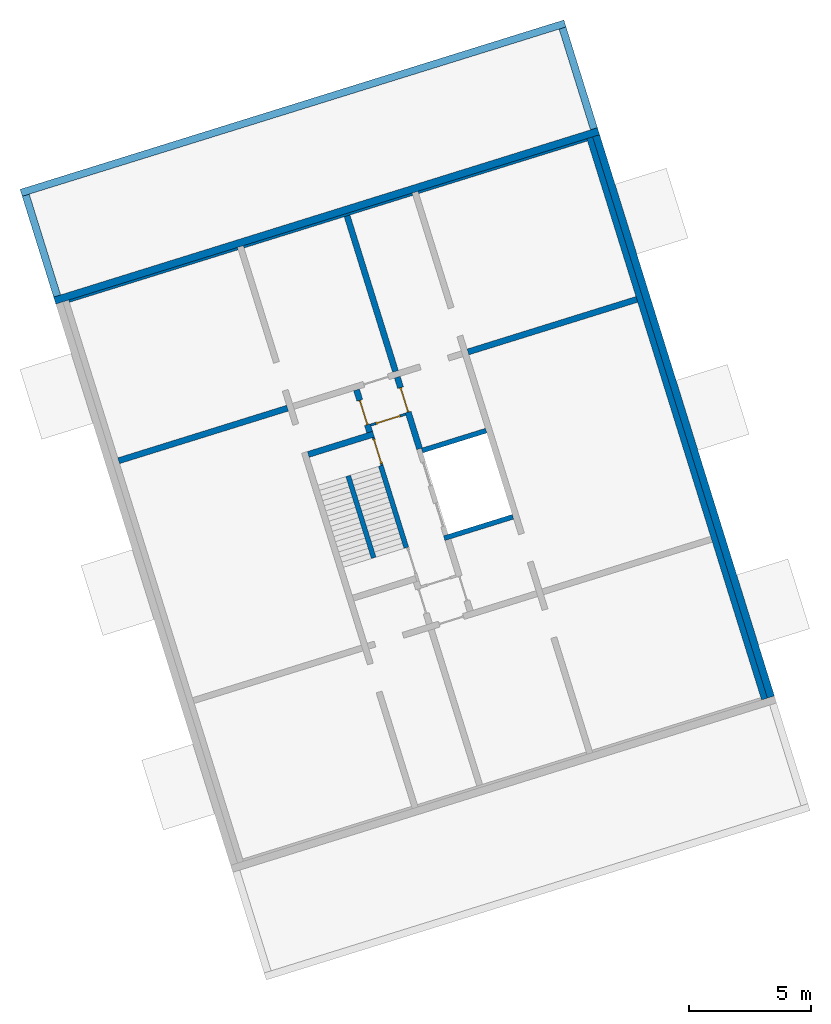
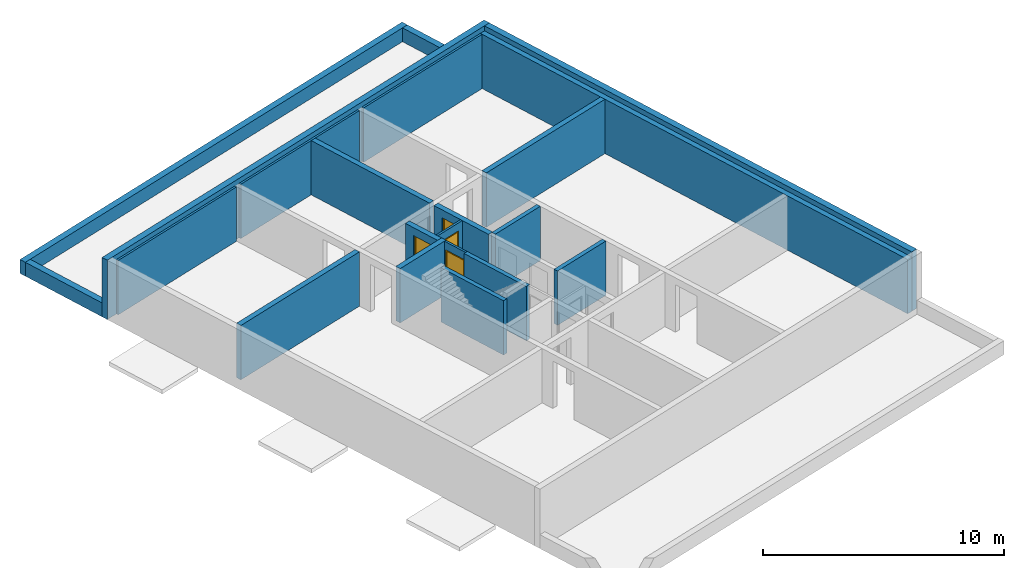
# One storey, part 2 of 4: 21 walls, 4 doors, 4 openings.
"""IFC4 building model written with IfcOpenShell, lengths in metres."""

from ifc_helpers import new_model, entity, si_unit, converted_unit, direction, frame, origin, place, context, subcontext, project, spatial, indexed_curve, outline, extrude, polygons, source, transform, mapped, material, constituent, constituent_set, type_object, type_shapes, element, fill, save


model = new_model("IFC4")

# Units and contexts
model_context = context("Model", 3, precision=1e-05, world=origin(), true_north=direction((6.12323399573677e-17, 1.0)))
body_context = subcontext(model_context, "Body", "Model", "MODEL_VIEW")
ifc_project = project(units=[si_unit("LENGTHUNIT", "METRE"), si_unit("AREAUNIT", "SQUARE_METRE"), si_unit("VOLUMEUNIT", "CUBIC_METRE"), converted_unit("PLANEANGLEUNIT", "DEGREE", entity("IfcPlaneAngleMeasure", 0.0174532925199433), si_unit("PLANEANGLEUNIT", "RADIAN"), dimensions=[0, 0, 0, 0, 0, 0, 0])], contexts=[model_context])

# Site, building, storey
site_placement = place(None, frame((13.1347999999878, 11.9886000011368, 0.0), z_axis=(0.0, 0.0, 1.0), x_axis=(0.954770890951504, 0.297342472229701, 0.0)))
site = spatial("IfcSite", under=ifc_project, at=site_placement, Name="Schiehaven", CompositionType="ELEMENT")
building_placement = place(site_placement, origin())
building = spatial("IfcBuilding", under=site, at=building_placement, Name="VORM huis", CompositionType="ELEMENT")
storey_placement = place(building_placement, frame((0.0, 0.0, 6.9)))
storey = spatial("IfcBuildingStorey", under=building, at=storey_placement, Name="02 tweede verdieping", CompositionType="ELEMENT", Elevation=6.9)

# Walls
ifc_material_1 = material(Name="beton_gewapend_ihw", Category="Miscellaneous")
wall_type_1 = type_object("IfcWallType", Name="Basic Wall:28_WA_skelet_wand 250mm_gen", PredefinedType="STANDARD")
wall_1_placement = place(storey_placement, frame((80.0, 5.0, 0.0), z_axis=(0.0, 0.0, 1.0), x_axis=(0.0, 1.0, 0.0)))
element("IfcWall", 1, at=wall_1_placement, inside=storey, type_object=wall_type_1, material=ifc_material_1, Name="Constructieve wand", ObjectType="Wand", PredefinedType="NOTDEFINED", context=body_context, shape_type="SweptSolid", body=[
    extrude(outline(indexed_curve([(24.1, 0.125000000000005), (1.84706995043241e-16, 0.125000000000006), (-1.84706995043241e-16, -0.125000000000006), (24.1, -0.125000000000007), (24.1, 0.125000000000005)], self_intersect=False)), origin(), (0.0, 0.0, 1.0), 2.75),
])
ifc_material_2 = material(Name="ntb_ntb_ntb", Category="Miscellaneous")
wall_type_2 = type_object("IfcWallType", Name="Basic Wall:21_WA_gevel_binnenspouwwand 100mm_gen", PredefinedType="STANDARD")
wall_2_placement = place(storey_placement, frame((79.8750000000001, 29.0499999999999, 0.0), z_axis=(0.0, 0.0, 1.0), x_axis=(-1.0, 0.0, 0.0)))
element("IfcWall", 2, at=wall_2_placement, inside=storey, type_object=wall_type_2, material=ifc_material_2, Name="Binnenspouwblad", ObjectType="Wand", PredefinedType="NOTDEFINED", context=body_context, shape_type="SweptSolid", body=[
    extrude(outline(indexed_curve([(7.24999999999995, 0.0500000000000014), (-2.83038752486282e-17, 0.0500000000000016), (2.83038752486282e-17, -0.0500000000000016), (7.24999999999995, -0.0500000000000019), (7.24999999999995, 0.0500000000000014)], self_intersect=False)), origin(), (0.0, 0.0, 1.0), 2.75),
])
wall_3_placement = place(storey_placement, frame((65.1250000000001, 29.0499999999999, 0.0)))
element("IfcWall", 3, at=wall_3_placement, inside=storey, type_object=wall_type_2, material=ifc_material_2, Name="Binnenspouwblad", ObjectType="Wand", PredefinedType="NOTDEFINED", context=body_context, shape_type="SweptSolid", body=[
    extrude(outline(indexed_curve([(7.24999999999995, 0.0500000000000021), (-1.82497125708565e-16, 0.0500000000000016), (1.82497125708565e-16, -0.0500000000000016), (7.24999999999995, -0.0500000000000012), (7.24999999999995, 0.0500000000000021)], self_intersect=False)), origin(), (0.0, 0.0, 1.0), 2.75),
])
wall_4_placement = place(storey_placement, frame((64.8750000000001, 29.0499999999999, 0.0), z_axis=(0.0, 0.0, 1.0), x_axis=(-1.0, 0.0, 0.0)))
element("IfcWall", 4, at=wall_4_placement, inside=storey, type_object=wall_type_2, material=ifc_material_2, Name="Binnenspouwblad", ObjectType="Wand", PredefinedType="NOTDEFINED", context=body_context, shape_type="SweptSolid", body=[
    extrude(outline(indexed_curve([(7.24999999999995, 0.0500000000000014), (-2.83038752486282e-17, 0.0500000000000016), (2.83038752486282e-17, -0.0500000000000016), (7.24999999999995, -0.0500000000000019), (7.24999999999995, 0.0500000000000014)], self_intersect=False)), origin(), (0.0, 0.0, 1.0), 2.75),
])
wall_type_3 = type_object("IfcWallType", Name="Basic Wall: 300mm_gen", PredefinedType="STANDARD")
wall_5_placement = place(storey_placement, frame((80.2750000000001, 5.0, 0.0), z_axis=(0.0, 0.0, 1.0), x_axis=(0.0, 1.0, 0.0)))
element("IfcWall", 5, at=wall_5_placement, inside=storey, type_object=wall_type_3, material=ifc_material_2, Name="Gevelwand", ObjectType="Wand", PredefinedType="NOTDEFINED", context=body_context, shape_type="SweptSolid", body=[
    extrude(outline(indexed_curve([(24.1, 0.150000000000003), (-2.29983128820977e-16, 0.150000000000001), (2.29983128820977e-16, -0.150000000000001), (24.1, -0.149999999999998), (24.1, 0.150000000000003)], self_intersect=False)), origin(), (0.0, 0.0, 1.0), 3.0),
])
wall_6_placement = place(storey_placement, frame((80.4250000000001, 29.2499999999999, 0.0), z_axis=(0.0, 0.0, 1.0), x_axis=(-1.0, 0.0, 0.0)))
element("IfcWall", 6, at=wall_6_placement, inside=storey, type_object=wall_type_3, material=ifc_material_2, Name="Gevelwand", ObjectType="Wand", PredefinedType="NOTDEFINED", context=body_context, shape_type="SweptSolid", body=[
    extrude(outline(indexed_curve([(23.35, 0.150000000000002), (-2.29983128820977e-16, 0.150000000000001), (2.29983128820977e-16, -0.150000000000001), (23.35, -0.149999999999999), (23.35, 0.150000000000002)], self_intersect=False)), origin(), (0.0, 0.0, 1.0), 3.0),
])
wall_7_placement = place(storey_placement, frame((57.2250000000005, 29.3999999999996, 0.0), z_axis=(0.0, 0.0, 1.0), x_axis=(0.0, 1.0, 0.0)))
element("IfcWall", 7, at=wall_7_placement, inside=storey, type_object=wall_type_3, material=ifc_material_2, Name="Gevelwand", ObjectType="Wand", PredefinedType="NOTDEFINED", context=body_context, shape_type="SweptSolid", body=[
    extrude(outline(indexed_curve([(4.32500000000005, 0.150000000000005), (-1.65365309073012e-15, 0.150000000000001), (1.65365309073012e-15, -0.150000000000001), (4.32500000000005, -0.149999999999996), (4.32500000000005, 0.150000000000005)], self_intersect=False)), origin(), (0.0, 0.0, 1.0), 0.700000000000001),
])
wall_8_placement = place(storey_placement, frame((57.0750000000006, 33.8749999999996, 0.0)))
element("IfcWall", 8, at=wall_8_placement, inside=storey, type_object=wall_type_3, material=ifc_material_2, Name="Gevelwand", ObjectType="Wand", PredefinedType="NOTDEFINED", context=body_context, shape_type="SweptSolid", body=[
    extrude(outline(indexed_curve([(23.3499999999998, 0.150000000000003), (-1.40493232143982e-15, 0.150000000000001), (1.40493232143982e-15, -0.150000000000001), (23.3499999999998, -0.149999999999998), (23.3499999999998, 0.150000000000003)], self_intersect=False)), origin(), (0.0, 0.0, 1.0), 0.700000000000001),
])
wall_9_placement = place(storey_placement, frame((80.2750000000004, 33.7249999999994, 0.0), z_axis=(0.0, 0.0, 1.0), x_axis=(0.0, -1.0, 0.0)))
element("IfcWall", 9, at=wall_9_placement, inside=storey, type_object=wall_type_3, material=ifc_material_2, Name="Gevelwand", ObjectType="Wand", PredefinedType="NOTDEFINED", context=body_context, shape_type="SweptSolid", body=[
    extrude(outline(indexed_curve([(4.32499999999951, 0.150000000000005), (-7.43704638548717e-16, 0.150000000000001), (7.43704638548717e-16, -0.150000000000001), (4.32499999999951, -0.149999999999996), (4.32499999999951, 0.150000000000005)], self_intersect=False)), origin(), (0.0, 0.0, 1.0), 0.700000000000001),
])
ifc_material_3 = material(Name="beton_gewapend_prefab-element", Category="Miscellaneous")
wall_type_4 = type_object("IfcWallType", Name="Basic Wall:28_WA_skelet_wand 200mm_gen", PredefinedType="STANDARD")
wall_10_placement = place(storey_placement, frame((72.3750000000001, 15.1999999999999, 0.0), z_axis=(0.0, 0.0, 1.0), x_axis=(-1.0, 0.0, 0.0)))
element("IfcWall", 10, at=wall_10_placement, inside=storey, type_object=wall_type_4, material=ifc_material_3, Name="Constructieve wand", ObjectType="Wand", PredefinedType="NOTDEFINED", context=body_context, shape_type="SweptSolid", body=[
    extrude(outline(indexed_curve([(2.95000000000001, 0.0999999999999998), (-2.97399835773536e-17, 0.0999999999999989), (2.97399835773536e-17, -0.0999999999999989), (2.95000000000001, -0.099999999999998), (2.95000000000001, 0.0999999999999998)], self_intersect=False)), origin(), (0.0, 0.0, 1.0), 2.75),
])
wall_11_placement = place(storey_placement, frame((69.6250000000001, 18.8999999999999, 0.0)))
element("IfcWall", 11, at=wall_11_placement, inside=storey, type_object=wall_type_4, material=ifc_material_3, Name="Constructieve wand", ObjectType="Wand", PredefinedType="NOTDEFINED", context=body_context, shape_type="SweptSolid", body=[
    extrude(outline(indexed_curve([(2.75, 0.0999999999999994), (-1.75746575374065e-16, 0.100000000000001), (1.75746575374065e-16, -0.100000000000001), (2.75, -0.100000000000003), (2.75, 0.0999999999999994)], self_intersect=False)), origin(), (0.0, 0.0, 1.0), 2.75),
])
wall_12_placement = place(storey_placement, frame((67.8250000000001, 15.2899999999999, 0.0), z_axis=(0.0, 0.0, 1.0), x_axis=(0.0, 1.0, 0.0)))
element("IfcWall", 12, at=wall_12_placement, inside=storey, type_object=wall_type_4, material=ifc_material_3, Name="Constructieve wand", ObjectType="Wand", PredefinedType="NOTDEFINED", context=body_context, shape_type="SweptSolid", body=[
    extrude(outline(indexed_curve([(3.52, 0.100000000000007), (1.31886131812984e-16, 0.100000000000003), (-1.31886131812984e-16, -0.100000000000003), (3.52, -0.0999999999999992), (3.52, 0.100000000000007)], self_intersect=False)), origin(), (0.0, 0.0, 1.0), 2.75),
])
wall_13_placement = place(storey_placement, frame((66.4250000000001, 15.2899999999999, 0.0), z_axis=(0.0, 0.0, 1.0), x_axis=(0.0, 1.0, 0.0)))
element("IfcWall", 13, at=wall_13_placement, inside=storey, type_object=wall_type_4, material=ifc_material_3, Name="Constructieve wand", ObjectType="Wand", PredefinedType="NOTDEFINED", context=body_context, shape_type="SweptSolid", body=[
    extrude(outline(indexed_curve([(3.52, 0.100000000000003), (2.54939214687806e-16, 0.100000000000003), (-2.54939214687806e-16, -0.100000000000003), (3.52, -0.100000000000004), (3.52, 0.100000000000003)], self_intersect=False)), origin(), (0.0, 0.0, 1.0), 2.75),
])
wall_type_5 = type_object("IfcWallType", Name="Basic Wall:22_WA_afbouw_binnenwand 250mm_gen", PredefinedType="STANDARD")
wall_14_placement = place(storey_placement, frame((65.1250000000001, 20.1349999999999, 0.0)))
element("IfcWall", 14, at=wall_14_placement, inside=storey, type_object=wall_type_5, material=ifc_material_2, Name="Binnenwand", ObjectType="Wand", PredefinedType="NOTDEFINED", context=body_context, shape_type="SweptSolid", body=[
    extrude(outline(indexed_curve([(2.8, 0.125000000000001), (2.00742282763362e-17, 0.125000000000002), (-2.00742282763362e-17, -0.125000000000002), (2.8, -0.125000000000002), (2.8, 0.125000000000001)], self_intersect=False)), origin(), (0.0, 0.0, 1.0), 2.75),
])

# Wall, opening, door
wall_15_placement = place(storey_placement, frame((67.8000000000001, 20.2599999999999, 0.0), z_axis=(0.0, 0.0, 1.0), x_axis=(0.0, 1.0, 0.0)))
wall_15 = element("IfcWall", 15, at=wall_15_placement, inside=storey, type_object=wall_type_5, material=ifc_material_2, Name="Binnenwand", ObjectType="Wand", PredefinedType="NOTDEFINED", context=body_context, shape_type="Tessellation", body=[
    polygons([(0.0, -0.124999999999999, 1.08286712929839e-15), (0.215000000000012, -0.125000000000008, 0.0), (0.315000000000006, -0.124999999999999, 1.08286712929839e-15), (0.315000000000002, -0.124999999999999, 2.34999999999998), (1.36500000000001, -0.125000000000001, 2.34999999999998), (1.36500000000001, -0.125000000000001, 1.08286712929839e-15), (1.81499999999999, -0.125000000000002, 1.08286712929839e-15), (1.81499999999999, -0.125000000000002, 2.75), (0.315000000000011, -0.125000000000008, 2.75), (0.215000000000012, -0.125000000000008, 2.75), (0.0, -0.124999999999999, 2.75), (0.315000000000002, 0.124999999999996, 2.34999999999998), (0.315000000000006, 0.124999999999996, 1.08286712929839e-15), (0.0, 0.124999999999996, 1.08286712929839e-15), (0.0, 0.124999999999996, 2.75), (1.81499999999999, 0.124999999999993, 2.75), (1.81499999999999, 0.124999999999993, 1.08286712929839e-15), (1.36500000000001, 0.124999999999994, 1.08286712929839e-15), (1.36500000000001, 0.124999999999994, 2.34999999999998)], [[[1, 2, 3, 4, 5, 6, 7, 8, 9, 10, 11]], [[12, 13, 14, 15, 16, 17, 18, 19]], [[14, 13, 3, 2, 1]], [[8, 7, 17, 16]], [[11, 10, 9, 8, 16, 15]], [[1, 11, 15, 14]], [[6, 5, 19, 18]], [[4, 3, 13, 12]], [[5, 4, 12, 19]], [[18, 17, 7, 6]]], closed=True),
])
opening_1_placement = place(wall_15_placement, frame((1.36500000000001, 0.124999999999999, 0.0)))
opening_1 = element("IfcOpeningElement", 16, at=opening_1_placement, cuts=wall_15, Name="Woningtoegangsdeur", PredefinedType="OPENING", context=body_context, shape_type="SweptSolid", body=[
    extrude(outline(indexed_curve([(2.34999999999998, 3.29504974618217e-30), (2.34999999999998, 1.05), (0.0, 1.05), (0.0, 3.29504974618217e-30), (2.34999999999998, 3.29504974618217e-30)], self_intersect=False)), frame((0.0, 0.0, 0.0), z_axis=(0.0, -1.0, 0.0), x_axis=(0.0, 0.0, 1.0)), (0.0, 0.0, 1.0), 0.25),
])
ifc_material_4 = material(Name="PD_a_binnenwandopeningen", Category="Miscellaneous")
ifc_constituent_1 = constituent(ifc_material_4, Name="PD_a_binnenwandopeningen", Category="Miscellaneous")
ifc_material_5 = material(Name="metaal_aluminium_ntb", Category="Miscellaneous")
ifc_constituent_2 = constituent(ifc_material_5, Name="metaal_aluminium_ntb", Category="Miscellaneous")
ifc_constituent_set_1 = constituent_set(constituents=[ifc_constituent_1, ifc_constituent_2])
ifc_constituent_3 = constituent(ifc_material_4, Name="PD_a_binnenwandopeningen", Category="Miscellaneous")
ifc_constituent_4 = constituent(ifc_material_5, Name="Panel", Category="Miscellaneous")
ifc_constituent_set_2 = constituent_set(constituents=[ifc_constituent_3, ifc_constituent_4])
door_type_1 = type_object("IfcDoorType", Name="32_DO_binnendeur enkel:woningtoegangsdeur", OperationType="REVOLVING", PredefinedType="DOOR", material=ifc_constituent_set_2)
shared_shape_1 = source(origin(), body_context, "Body", "SweptSolid", [
    extrude(outline(indexed_curve([(0.475, -1.16249999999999), (0.525000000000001, -1.16249999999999), (0.525000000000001, 1.18749999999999), (-0.525000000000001, 1.18749999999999), (-0.525000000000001, -1.16249999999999), (-0.475, -1.16249999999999), (-0.475, 1.13749999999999), (0.475, 1.13749999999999), (0.475, -1.16249999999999)], self_intersect=False)), frame((0.525000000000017, 0.174999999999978, 1.16249999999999), z_axis=(0.0, -1.0, 0.0), x_axis=(1.0, 0.0, 0.0)), (0.0, 0.0, 1.0), 0.1),
    extrude(outline(indexed_curve([(-0.475, -0.025), (0.475, -0.025), (0.475, 0.025), (-0.475, 0.025), (-0.475, -0.025)], self_intersect=False)), frame((0.525000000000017, 0.12499999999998, 0.0)), (0.0, 0.0, 1.0), 2.29999999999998),
])
type_shapes(door_type_1, [shared_shape_1])
door_1_placement = place(opening_1_placement, frame((0.0, 0.0, 0.0), z_axis=(0.0, 0.0, 1.0), x_axis=(-1.0, 0.0, 0.0)))
door_1 = element("IfcDoor", 17, at=door_1_placement, inside=storey, type_object=door_type_1, material=ifc_constituent_set_1, Name="Woningtoegangsdeur", ObjectType="Deur", OperationType="REVOLVING", OverallHeight=2.34999999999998, OverallWidth=1.05, PredefinedType="DOOR", context=body_context, shape_type="MappedRepresentation", body=[
    mapped(shared_shape_1, transform((0.0, 0.0, 0.0), scale=1.0)),
])
fill(opening_1, door_1)

wall_16_placement = place(storey_placement, frame((69.5500000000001, 19.0, 0.0), z_axis=(0.0, 0.0, 1.0), x_axis=(0.0, 1.0, 0.0)))
wall_16 = element("IfcWall", 18, at=wall_16_placement, inside=storey, type_object=wall_type_5, material=ifc_material_2, Name="Binnenwand", ObjectType="Wand", PredefinedType="NOTDEFINED", context=body_context, shape_type="Tessellation", body=[
    polygons([(2.62500000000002, -0.125000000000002, 2.34999999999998), (2.62500000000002, -0.125000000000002, 1.08286712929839e-15), (3.07499999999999, -0.125000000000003, 1.08286712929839e-15), (3.07499999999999, -0.125000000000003, 2.75), (2.16573425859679e-15, -0.125000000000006, 2.75), (2.16573425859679e-15, -0.125000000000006, 1.08286712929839e-15), (1.57500000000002, -0.125, 1.08286712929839e-15), (1.57500000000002, -0.125, 2.34999999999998), (3.075, 0.125000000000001, 1.08286712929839e-15), (2.62500000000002, 0.125000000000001, 1.08286712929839e-15), (2.62500000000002, 0.125000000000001, 2.34999999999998), (1.57500000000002, 0.125000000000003, 2.34999999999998), (1.57500000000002, 0.125000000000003, 1.08286712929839e-15), (1.475, 0.125000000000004, 0.0), (4.33146851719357e-15, 0.125000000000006, 1.08286712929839e-15), (4.33146851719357e-15, 0.125000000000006, 2.75), (1.475, 0.125000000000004, 2.75), (1.575, 0.125000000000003, 2.75), (3.075, 0.125000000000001, 2.75)], [[[1, 2, 3, 4, 5, 6, 7, 8]], [[9, 10, 11, 12, 13, 14, 15, 16, 17, 18, 19]], [[7, 6, 15, 14, 13]], [[4, 3, 9, 19]], [[5, 4, 19, 18, 17, 16]], [[6, 5, 16, 15]], [[13, 12, 8, 7]], [[11, 10, 2, 1]], [[12, 11, 1, 8]], [[3, 2, 10, 9]]], closed=True),
])
opening_2_placement = place(wall_16_placement, frame((1.57499999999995, -0.124999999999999, 0.0)))
opening_2 = element("IfcOpeningElement", 19, at=opening_2_placement, cuts=wall_16, Name="Woningtoegangsdeur", PredefinedType="OPENING", context=body_context, shape_type="SweptSolid", body=[
    extrude(outline(indexed_curve([(2.34999999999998, 3.4855615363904e-30), (2.34999999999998, 1.05), (0.0, 1.05), (0.0, 3.4855615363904e-30), (2.34999999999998, 3.4855615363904e-30)], self_intersect=False)), frame((0.0, 0.0, 0.0), z_axis=(0.0, 1.0, 0.0), x_axis=(0.0, 0.0, 1.0)), (0.0, 0.0, 1.0), 0.25),
])
ifc_constituent_5 = constituent(ifc_material_4, Name="PD_a_binnenwandopeningen", Category="Miscellaneous")
ifc_constituent_6 = constituent(ifc_material_5, Name="metaal_aluminium_ntb", Category="Miscellaneous")
ifc_constituent_set_3 = constituent_set(constituents=[ifc_constituent_5, ifc_constituent_6])
door_2_placement = place(opening_2_placement, origin())
door_2 = element("IfcDoor", 20, at=door_2_placement, inside=storey, type_object=door_type_1, material=ifc_constituent_set_3, Name="Woningtoegangsdeur", ObjectType="Deur", OperationType="REVOLVING", OverallHeight=2.34999999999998, OverallWidth=1.05, PredefinedType="DOOR", context=body_context, shape_type="MappedRepresentation", body=[
    mapped(shared_shape_1, transform((0.0, 0.0, 0.0), scale=1.0)),
])
fill(opening_2, door_2)

# Walls
wall_17_placement = place(storey_placement, frame((72.6250000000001, 22.1999999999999, 0.0)))
element("IfcWall", 21, at=wall_17_placement, inside=storey, type_object=wall_type_5, material=ifc_material_2, Name="Binnenwand", ObjectType="Wand", PredefinedType="NOTDEFINED", context=body_context, shape_type="SweptSolid", body=[
    extrude(outline(indexed_curve([(7.24999999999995, 0.125000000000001), (2.00742282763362e-17, 0.125000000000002), (-2.00742282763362e-17, -0.125000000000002), (7.24999999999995, -0.125000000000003), (7.24999999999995, 0.125000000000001)], self_intersect=False)), origin(), (0.0, 0.0, 1.0), 2.75),
])
wall_18_placement = place(storey_placement, frame((69.5500000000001, 22.3249999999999, 0.0), z_axis=(0.0, 0.0, 1.0), x_axis=(0.0, 1.0, 0.0)))
element("IfcWall", 22, at=wall_18_placement, inside=storey, type_object=wall_type_5, material=ifc_material_2, Name="Binnenwand", ObjectType="Wand", PredefinedType="NOTDEFINED", context=body_context, shape_type="SweptSolid", body=[
    extrude(outline(indexed_curve([(6.67500000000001, 0.124999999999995), (2.13043668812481e-16, 0.124999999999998), (-2.13043668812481e-16, -0.124999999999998), (6.67500000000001, -0.125), (6.67500000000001, 0.124999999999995)], self_intersect=False)), origin(), (0.0, 0.0, 1.0), 2.75),
])
wall_19_placement = place(storey_placement, frame((64.8750000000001, 22.1999999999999, 0.0), z_axis=(0.0, 0.0, 1.0), x_axis=(-1.0, 0.0, 0.0)))
element("IfcWall", 23, at=wall_19_placement, inside=storey, type_object=wall_type_5, material=ifc_material_2, Name="Binnenwand", ObjectType="Wand", PredefinedType="NOTDEFINED", context=body_context, shape_type="SweptSolid", body=[
    extrude(outline(indexed_curve([(7.24999999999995, 0.125000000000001), (-2.84367080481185e-16, 0.125000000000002), (2.84367080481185e-16, -0.125000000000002), (7.24999999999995, -0.125000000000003), (7.24999999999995, 0.125000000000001)], self_intersect=False)), origin(), (0.0, 0.0, 1.0), 2.75),
])

# Wall, opening, door
wall_type_6 = type_object("IfcWallType", Name="Basic Wall:22_WA_afbouw_binnenwand 100mm_gen", PredefinedType="STANDARD")
wall_20_placement = place(storey_placement, frame((67.8750000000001, 20.0099999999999, 0.0), z_axis=(0.0, 0.0, 1.0), x_axis=(0.0, -1.0, 0.0)))
wall_20 = element("IfcWall", 24, at=wall_20_placement, inside=storey, type_object=wall_type_6, material=ifc_material_2, Name="Binnenwand", ObjectType="Wand", PredefinedType="NOTDEFINED", context=body_context, shape_type="Tessellation", body=[
    polygons([(1.2, -0.0500000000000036, 1.08286712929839e-15), (1.2, -0.0500000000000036, 2.75), (0.0, -0.0500000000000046, 2.75), (0.0, -0.0500000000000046, 1.08286712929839e-15), (0.0750000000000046, -0.0500000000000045, 1.08286712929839e-15), (0.0750000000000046, -0.0500000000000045, 2.34999999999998), (1.125, -0.0500000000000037, 2.34999999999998), (1.125, -0.0500000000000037, 1.08286712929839e-15), (1.2, 0.049999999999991, 2.75), (1.2, 0.049999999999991, 1.08286712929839e-15), (1.125, 0.0499999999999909, 1.08286712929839e-15), (1.125, 0.0499999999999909, 2.34999999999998), (0.0750000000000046, 0.0499999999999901, 2.34999999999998), (0.0750000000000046, 0.0499999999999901, 1.08286712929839e-15), (0.0, 0.04999999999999, 1.08286712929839e-15), (0.0, 0.04999999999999, 2.75)], [[[1, 2, 3, 4, 5, 6, 7, 8]], [[9, 10, 11, 12, 13, 14, 15, 16]], [[4, 15, 14, 5]], [[2, 1, 10, 9]], [[3, 2, 9, 16]], [[4, 3, 16, 15]], [[13, 6, 5, 14]], [[6, 13, 12, 7]], [[7, 12, 11, 8]], [[10, 1, 8, 11]]], closed=True),
])
opening_3_placement = place(wall_20_placement, frame((1.12500000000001, 0.0499999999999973, 0.0)))
opening_3 = element("IfcOpeningElement", 25, at=opening_3_placement, cuts=wall_20, Name="Vluchtdeur", PredefinedType="OPENING", context=body_context, shape_type="SweptSolid", body=[
    extrude(outline(indexed_curve([(2.34999999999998, 0.0), (2.34999999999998, 1.05), (0.0, 1.05), (0.0, 0.0), (2.34999999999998, 0.0)], self_intersect=False)), frame((0.0, 0.0, 0.0), z_axis=(0.0, -1.0, 0.0), x_axis=(0.0, 0.0, 1.0)), (0.0, 0.0, 1.0), 0.1),
])
ifc_constituent_7 = constituent(ifc_material_4, Name="PD_a_binnenwandopeningen", Category="Miscellaneous")
ifc_constituent_8 = constituent(ifc_material_5, Name="metaal_aluminium_ntb", Category="Miscellaneous")
ifc_constituent_set_4 = constituent_set(constituents=[ifc_constituent_7, ifc_constituent_8])
ifc_constituent_9 = constituent(ifc_material_4, Name="PD_a_binnenwandopeningen", Category="Miscellaneous")
ifc_constituent_10 = constituent(ifc_material_5, Name="Panel", Category="Miscellaneous")
ifc_constituent_set_5 = constituent_set(constituents=[ifc_constituent_9, ifc_constituent_10])
door_type_2 = type_object("IfcDoorType", Name="32_DO_binnendeur enkel:binnendeur zelfsluitend 30min", OperationType="NOTDEFINED", PredefinedType="DOOR", material=ifc_constituent_set_5)
shared_shape_2 = source(origin(), body_context, "Body", "SweptSolid", [
    extrude(outline(indexed_curve([(0.475, -1.16249999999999), (0.525, -1.16249999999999), (0.525, 1.18749999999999), (-0.525, 1.18749999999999), (-0.525, -1.16249999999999), (-0.475, -1.16249999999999), (-0.475, 1.13749999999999), (0.475, 1.13749999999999), (0.475, -1.16249999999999)], self_intersect=False)), frame((0.525000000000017, 0.100000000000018, 1.16249999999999), z_axis=(0.0, -1.0, 0.0), x_axis=(1.0, 0.0, 0.0)), (0.0, 0.0, 1.0), 0.1),
    extrude(outline(indexed_curve([(-0.475, -0.025), (0.475, -0.025), (0.475, 0.025), (-0.475, 0.025), (-0.475, -0.025)], self_intersect=False)), frame((0.525000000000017, 0.0499999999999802, 0.0)), (0.0, 0.0, 1.0), 2.29999999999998),
])
type_shapes(door_type_2, [shared_shape_2])
door_3_placement = place(opening_3_placement, frame((0.0, 0.0, 0.0), z_axis=(0.0, 0.0, 1.0), x_axis=(-1.0, 0.0, 0.0)))
door_3 = element("IfcDoor", 26, at=door_3_placement, inside=storey, type_object=door_type_2, material=ifc_constituent_set_4, Name="Vluchtdeur", ObjectType="Deur", OperationType="NOTDEFINED", OverallHeight=2.34999999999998, OverallWidth=1.05, PredefinedType="DOOR", context=body_context, shape_type="MappedRepresentation", body=[
    mapped(shared_shape_2, transform((0.0, 0.0, 0.0), scale=1.0)),
])
fill(opening_3, door_3)

wall_21_placement = place(storey_placement, frame((67.9250000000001, 20.5249999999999, 0.0)))
wall_21 = element("IfcWall", 27, at=wall_21_placement, inside=storey, type_object=wall_type_6, material=ifc_material_2, Name="Binnenwand", ObjectType="Wand", PredefinedType="NOTDEFINED", context=body_context, shape_type="Tessellation", body=[
    polygons([(1.49999999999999, -0.0499999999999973, 2.75), (-1.22207551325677e-14, -0.0499999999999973, 2.75), (-1.22207551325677e-14, -0.0499999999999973, 1.08286712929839e-15), (0.22499999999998, -0.0500000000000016, 1.08286712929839e-15), (0.22499999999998, -0.0500000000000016, 2.34999999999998), (1.27499999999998, -0.0500000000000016, 2.34999999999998), (1.27499999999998, -0.0500000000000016, 1.08286712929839e-15), (1.49999999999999, -0.0499999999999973, 1.08286712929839e-15), (-1.26612298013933e-14, 0.0500000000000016, 2.75), (1.49999999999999, 0.0500000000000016, 2.75), (1.49999999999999, 0.0500000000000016, 2.34999999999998), (1.49999999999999, 0.0500000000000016, 1.08286712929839e-15), (1.27499999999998, 0.0499999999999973, 1.08286712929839e-15), (1.27499999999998, 0.0499999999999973, 2.34999999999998), (0.22499999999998, 0.0499999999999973, 2.34999999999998), (0.22499999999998, 0.0499999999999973, 1.08286712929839e-15), (-1.26612298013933e-14, 0.0500000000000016, 1.08286712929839e-15), (-3.99829276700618e-15, 0.0500000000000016, 2.34999999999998)], [[[1, 2, 3, 4, 5, 6, 7, 8]], [[9, 10, 11, 12, 13, 14, 15, 16, 17, 18]], [[3, 17, 16, 4]], [[2, 1, 10, 9]], [[15, 5, 4, 16]], [[5, 15, 14, 6]], [[6, 14, 13, 7]], [[3, 2, 9, 18, 17]], [[1, 8, 12, 11, 10]], [[12, 8, 7, 13]]], closed=True),
])
opening_4_placement = place(wall_21_placement, frame((1.275, 0.049999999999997, 0.0)))
opening_4 = element("IfcOpeningElement", 28, at=opening_4_placement, cuts=wall_21, Name="Vluchtdeur", PredefinedType="OPENING", context=body_context, shape_type="SweptSolid", body=[
    extrude(outline(indexed_curve([(2.34999999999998, -1.7774791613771e-29), (2.34999999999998, 1.05), (0.0, 1.05), (0.0, -1.7774791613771e-29), (2.34999999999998, -1.7774791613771e-29)], self_intersect=False)), frame((0.0, 0.0, 0.0), z_axis=(0.0, -1.0, 0.0), x_axis=(0.0, 0.0, 1.0)), (0.0, 0.0, 1.0), 0.1),
])
ifc_constituent_11 = constituent(ifc_material_4, Name="PD_a_binnenwandopeningen", Category="Miscellaneous")
ifc_constituent_12 = constituent(ifc_material_5, Name="metaal_aluminium_ntb", Category="Miscellaneous")
ifc_constituent_set_6 = constituent_set(constituents=[ifc_constituent_11, ifc_constituent_12])
door_4_placement = place(opening_4_placement, frame((0.0, 0.0, 0.0), z_axis=(0.0, 0.0, 1.0), x_axis=(-1.0, 0.0, 0.0)))
door_4 = element("IfcDoor", 29, at=door_4_placement, inside=storey, type_object=door_type_2, material=ifc_constituent_set_6, Name="Vluchtdeur", ObjectType="Deur", OperationType="NOTDEFINED", OverallHeight=2.34999999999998, OverallWidth=1.05, PredefinedType="DOOR", context=body_context, shape_type="MappedRepresentation", body=[
    mapped(shared_shape_2, transform((0.0, 0.0, 0.0), scale=1.0)),
])
fill(opening_4, door_4)

save(model, "model.ifc")
